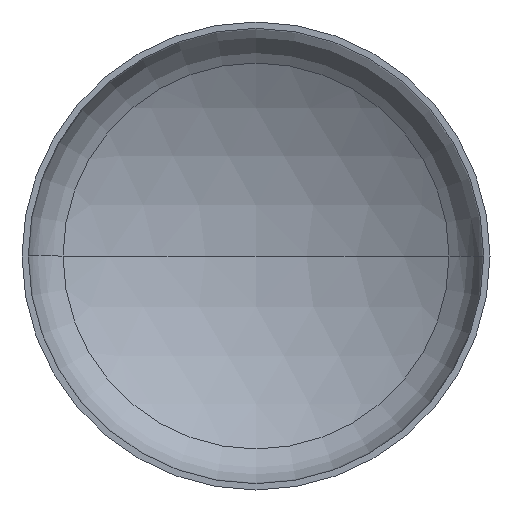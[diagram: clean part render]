
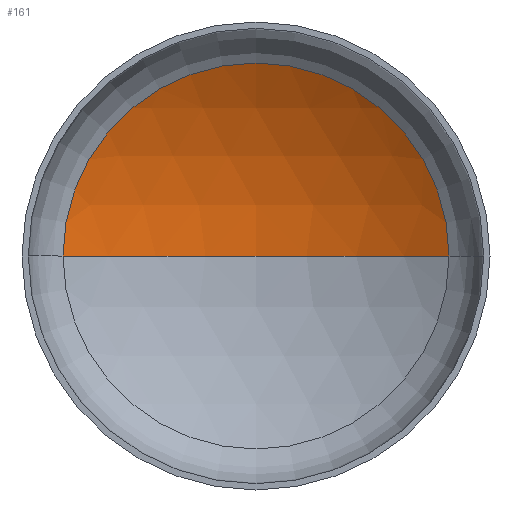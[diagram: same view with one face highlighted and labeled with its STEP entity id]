
A CAD part, front view. The second image highlights one B-rep face of the part: STEP entity #161.
In plain terms, the highlighted spherical face has radius 1360 mm.
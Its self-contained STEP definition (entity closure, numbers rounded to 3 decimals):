
#15 = ORIENTED_EDGE ( 'NONE', *, *, #111, .F. ) ;
#30 = AXIS2_PLACEMENT_3D ( 'NONE', #63, #257, #203 ) ;
#33 = VERTEX_POINT ( 'NONE', #292 ) ;
#45 = AXIS2_PLACEMENT_3D ( 'NONE', #334, #177, #386 ) ;
#49 = AXIS2_PLACEMENT_3D ( 'NONE', #280, #82, #297 ) ;
#51 = AXIS2_PLACEMENT_3D ( 'NONE', #400, #373, #148 ) ;
#53 = VERTEX_POINT ( 'NONE', #215 ) ;
#63 = CARTESIAN_POINT ( 'NONE',  ( 0., -872.609, 0. ) ) ;
#82 = DIRECTION ( 'NONE',  ( 0., 0., 1. ) ) ;
#95 = EDGE_LOOP ( 'NONE', ( #15, #118, #107 ) ) ;
#101 = EDGE_CURVE ( 'NONE', #53, #33, #313, .T. ) ;
#106 = EDGE_CURVE ( 'NONE', #153, #53, #368, .T. ) ;
#107 = ORIENTED_EDGE ( 'NONE', *, *, #101, .T. ) ;
#111 = EDGE_CURVE ( 'NONE', #153, #33, #375, .T. ) ;
#118 = ORIENTED_EDGE ( 'NONE', *, *, #106, .T. ) ;
#148 = DIRECTION ( 'NONE',  ( 1., 0., 0. ) ) ;
#153 = VERTEX_POINT ( 'NONE', #333 ) ;
#161 = ADVANCED_FACE ( 'NONE', ( #193 ), #256, .F. ) ;
#177 = DIRECTION ( 'NONE',  ( 0., 0., -1. ) ) ;
#193 = FACE_OUTER_BOUND ( 'NONE', #95, .T. ) ;
#203 = DIRECTION ( 'NONE',  ( -1., 0., 0. ) ) ;
#215 = CARTESIAN_POINT ( 'NONE',  ( 701.018, 292.798, 0. ) ) ;
#256 = SPHERICAL_SURFACE ( 'NONE', #30, 1360. ) ;
#257 = DIRECTION ( 'NONE',  ( 0., 0., -1. ) ) ;
#280 = CARTESIAN_POINT ( 'NONE',  ( 0., -872.609, 0. ) ) ;
#292 = CARTESIAN_POINT ( 'NONE',  ( -701.018, 292.798, 0. ) ) ;
#297 = DIRECTION ( 'NONE',  ( 1., 0., 0. ) ) ;
#313 = CIRCLE ( 'NONE', #51, 701.018 ) ;
#333 = CARTESIAN_POINT ( 'NONE',  ( 0., 487.391, 0. ) ) ;
#334 = CARTESIAN_POINT ( 'NONE',  ( 0., -872.609, 0. ) ) ;
#368 = CIRCLE ( 'NONE', #45, 1360. ) ;
#373 = DIRECTION ( 'NONE',  ( 0., -1., 0. ) ) ;
#375 = CIRCLE ( 'NONE', #49, 1360. ) ;
#386 = DIRECTION ( 'NONE',  ( -1., 0., 0. ) ) ;
#400 = CARTESIAN_POINT ( 'NONE',  ( 0., 292.798, 0. ) ) ;
